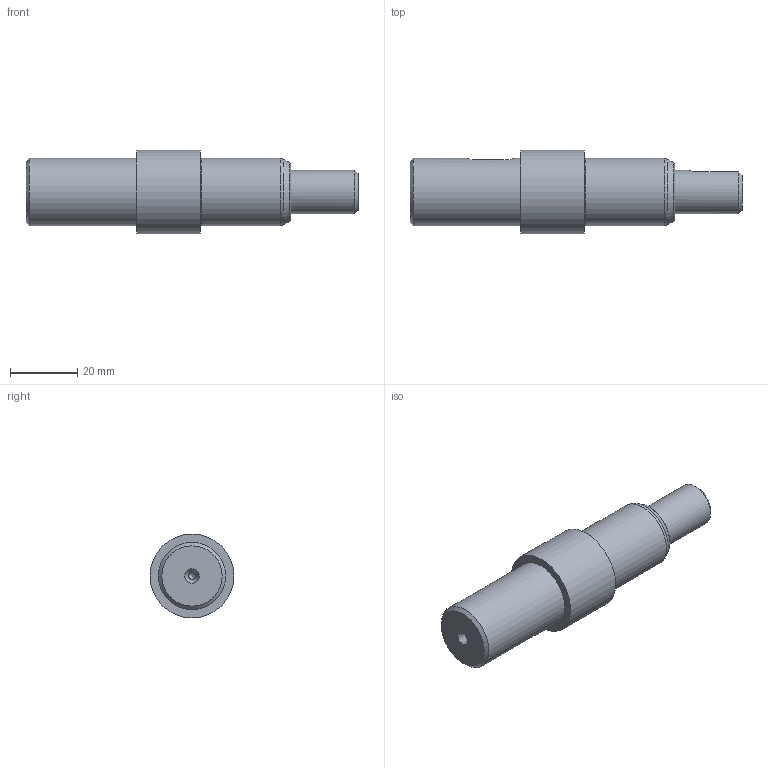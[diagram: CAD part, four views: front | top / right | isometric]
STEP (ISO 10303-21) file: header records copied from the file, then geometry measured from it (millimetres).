
FILE_DESCRIPTION(/* description */ (''),/* implementation_level */ '2;1');
FILE_NAME(/* name */ '',/* time_stamp */ '2025-09-02T10:52:29+09:00',/* author */ ('jhkim'),/* organization */ (''),/* preprocessor_version */ 'ST-DEVELOPER v20.1',/* originating_system */ 'Autodesk Inventor 2026',/* authorisation */ '');
FILE_SCHEMA (('AUTOMOTIVE_DESIGN { 1 0 10303 214 3 1 1 }'));
Length unit declared in the file: millimetre
Products named in the file (1): 구동 축
Bounding box: 99 x 25 x 25 mm (x, y, z)
Volume: 30138.7 mm3; surface area: 7146.9 mm2
Topology: 1 solids, 1 shells, 30 faces, 71 edges, 47 vertices
Faces by surface type: plane 11, cylinder 9, cone 7, torus 3
Full cylindrical faces by diameter (mm): 2 x2, 13 x1, 20 x2, 25 x1
Entity records: 952 total; most frequent: CARTESIAN_POINT 205, DIRECTION 155, ORIENTED_EDGE 138, EDGE_CURVE 69, AXIS2_PLACEMENT_3D 63, VERTEX_POINT 47, EDGE_LOOP 36, CIRCLE 32
